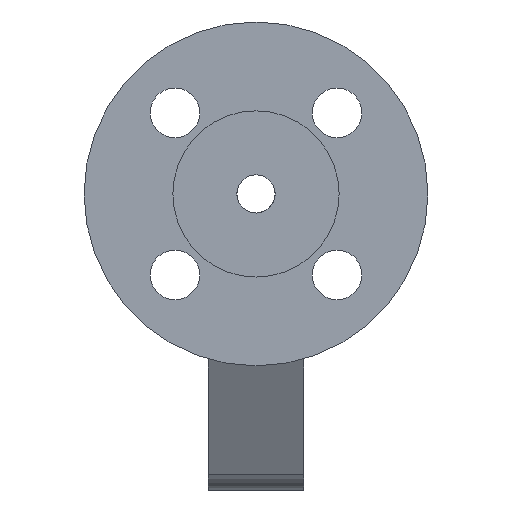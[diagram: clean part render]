
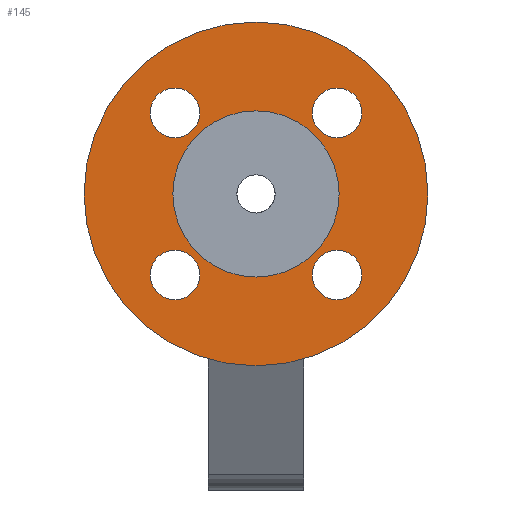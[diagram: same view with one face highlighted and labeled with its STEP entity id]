
A CAD part, left-side view. The second image highlights one B-rep face of the part: STEP entity #145.
In plain terms, the highlighted planar face has unit normal (-1, 0, 0).
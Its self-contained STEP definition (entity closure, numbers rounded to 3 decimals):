
#145=ADVANCED_FACE('',(#1160,#1162,#1164,#1166,#1168,#1170),#1172,.T.);
#1160=FACE_BOUND('',#1161,.T.);
#1161=EDGE_LOOP('',(#2064));
#1162=FACE_BOUND('',#1163,.T.);
#1163=EDGE_LOOP('',(#2065));
#1164=FACE_BOUND('',#1165,.T.);
#1165=EDGE_LOOP('',(#2066));
#1166=FACE_BOUND('',#1167,.T.);
#1167=EDGE_LOOP('',(#2067));
#1168=FACE_BOUND('',#1169,.T.);
#1169=EDGE_LOOP('',(#2068));
#1170=FACE_OUTER_BOUND('',#1171,.T.);
#1171=EDGE_LOOP('',(#2069));
#1172=PLANE('',#1173);
#1173=AXIS2_PLACEMENT_3D('',#1174,#1175,#1176);
#1174=CARTESIAN_POINT('',(-48.,0.,0.));
#1175=DIRECTION('',(-1.,0.,0.));
#1176=DIRECTION('',(0.,1.,0.));
#2064=ORIENTED_EDGE('',*,*,#3066,.T.);
#2065=ORIENTED_EDGE('',*,*,#3067,.T.);
#2066=ORIENTED_EDGE('',*,*,#3068,.T.);
#2067=ORIENTED_EDGE('',*,*,#3069,.T.);
#2068=ORIENTED_EDGE('',*,*,#3032,.T.);
#2069=ORIENTED_EDGE('',*,*,#3070,.F.);
#3032=EDGE_CURVE('',#3348,#3348,#3349,.T.);
#3066=EDGE_CURVE('',#3397,#3397,#3398,.F.);
#3067=EDGE_CURVE('',#3399,#3399,#3400,.F.);
#3068=EDGE_CURVE('',#3401,#3401,#3402,.F.);
#3069=EDGE_CURVE('',#3403,#3403,#3404,.F.);
#3070=EDGE_CURVE('',#3405,#3405,#3406,.T.);
#3348=VERTEX_POINT('',#4407);
#3349=CIRCLE('',#4408,21.75);
#3397=VERTEX_POINT('',#4533);
#3398=CIRCLE('',#4534,6.5);
#3399=VERTEX_POINT('',#4538);
#3400=CIRCLE('',#4539,6.5);
#3401=VERTEX_POINT('',#4543);
#3402=CIRCLE('',#4544,6.5);
#3403=VERTEX_POINT('',#4548);
#3404=CIRCLE('',#4549,6.5);
#3405=VERTEX_POINT('',#4553);
#3406=CIRCLE('',#4554,45.);
#4407=CARTESIAN_POINT('',(-48.,21.75,0.));
#4408=AXIS2_PLACEMENT_3D('',#4409,#4410,#4411);
#4409=CARTESIAN_POINT('',(-48.,0.,0.));
#4410=DIRECTION('',(1.,-0.,-0.));
#4411=DIRECTION('',(0.,1.,0.));
#4533=CARTESIAN_POINT('',(-48.,27.713,-21.213));
#4534=AXIS2_PLACEMENT_3D('',#4535,#4536,#4537);
#4535=CARTESIAN_POINT('',(-48.,21.213,-21.213));
#4536=DIRECTION('',(-1.,0.,0.));
#4537=DIRECTION('',(0.,1.,0.));
#4538=CARTESIAN_POINT('',(-48.,21.213,27.713));
#4539=AXIS2_PLACEMENT_3D('',#4540,#4541,#4542);
#4540=CARTESIAN_POINT('',(-48.,21.213,21.213));
#4541=DIRECTION('',(-1.,0.,0.));
#4542=DIRECTION('',(0.,0.,1.));
#4543=CARTESIAN_POINT('',(-48.,-27.713,21.213));
#4544=AXIS2_PLACEMENT_3D('',#4545,#4546,#4547);
#4545=CARTESIAN_POINT('',(-48.,-21.213,21.213));
#4546=DIRECTION('',(-1.,0.,0.));
#4547=DIRECTION('',(0.,-1.,-0.));
#4548=CARTESIAN_POINT('',(-48.,-21.213,-27.713));
#4549=AXIS2_PLACEMENT_3D('',#4550,#4551,#4552);
#4550=CARTESIAN_POINT('',(-48.,-21.213,-21.213));
#4551=DIRECTION('',(-1.,0.,0.));
#4552=DIRECTION('',(0.,0.,-1.));
#4553=CARTESIAN_POINT('',(-48.,45.,0.));
#4554=AXIS2_PLACEMENT_3D('',#4555,#4556,#4557);
#4555=CARTESIAN_POINT('',(-48.,0.,0.));
#4556=DIRECTION('',(1.,-0.,-0.));
#4557=DIRECTION('',(0.,1.,0.));
